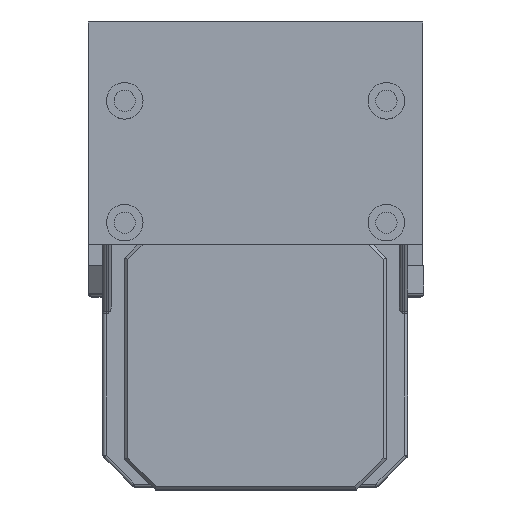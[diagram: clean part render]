
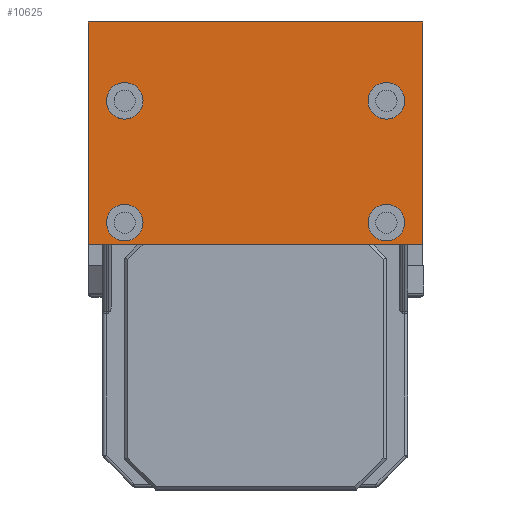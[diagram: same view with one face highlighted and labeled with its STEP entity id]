
A CAD part, top view. The second image highlights one B-rep face of the part: STEP entity #10625.
In plain terms, the highlighted planar face has unit normal (0, 0, 1).
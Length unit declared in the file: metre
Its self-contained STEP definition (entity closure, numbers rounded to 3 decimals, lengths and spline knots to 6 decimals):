
#881=PLANE('',#11750);
#1397=LINE('',#27463,#1933);
#1404=LINE('',#27480,#1940);
#1426=LINE('',#27572,#1962);
#1427=LINE('',#27582,#1963);
#1933=VECTOR('',#14065,1.);
#1940=VECTOR('',#14080,1.);
#1962=VECTOR('',#14198,1.);
#1963=VECTOR('',#14209,1.);
#4644=ORIENTED_EDGE('',*,*,#6384,.F.);
#4645=ORIENTED_EDGE('',*,*,#6385,.F.);
#4646=ORIENTED_EDGE('',*,*,#6386,.F.);
#4647=ORIENTED_EDGE('',*,*,#6387,.F.);
#4648=ORIENTED_EDGE('',*,*,#6340,.T.);
#4649=ORIENTED_EDGE('',*,*,#6388,.T.);
#4650=ORIENTED_EDGE('',*,*,#6349,.F.);
#4651=ORIENTED_EDGE('',*,*,#6383,.T.);
#6340=EDGE_CURVE('',#7509,#7508,#1397,.T.);
#6349=EDGE_CURVE('',#7514,#7515,#1404,.T.);
#6383=EDGE_CURVE('',#7514,#7509,#1426,.T.);
#6384=EDGE_CURVE('',#7537,#7537,#8123,.T.);
#6385=EDGE_CURVE('',#7538,#7538,#8124,.T.);
#6386=EDGE_CURVE('',#7539,#7539,#8125,.T.);
#6387=EDGE_CURVE('',#7540,#7540,#8126,.T.);
#6388=EDGE_CURVE('',#7508,#7515,#1427,.T.);
#7508=VERTEX_POINT('',#27462);
#7509=VERTEX_POINT('',#27464);
#7514=VERTEX_POINT('',#27479);
#7515=VERTEX_POINT('',#27481);
#7537=VERTEX_POINT('',#27575);
#7538=VERTEX_POINT('',#27577);
#7539=VERTEX_POINT('',#27579);
#7540=VERTEX_POINT('',#27581);
#8123=CIRCLE('',#11751,0.003);
#8124=CIRCLE('',#11752,0.003);
#8125=CIRCLE('',#11753,0.003);
#8126=CIRCLE('',#11754,0.003);
#8883=EDGE_LOOP('',(#4644));
#8884=EDGE_LOOP('',(#4645));
#8885=EDGE_LOOP('',(#4646));
#8886=EDGE_LOOP('',(#4647));
#8887=EDGE_LOOP('',(#4648,#4649,#4650,#4651));
#9744=FACE_BOUND('',#8883,.T.);
#9745=FACE_BOUND('',#8884,.T.);
#9746=FACE_BOUND('',#8885,.T.);
#9747=FACE_BOUND('',#8886,.T.);
#9748=FACE_BOUND('',#8887,.T.);
#10625=ADVANCED_FACE('',(#9744,#9745,#9746,#9747,#9748),#881,.T.);
#11750=AXIS2_PLACEMENT_3D('',#27573,#14199,#14200);
#11751=AXIS2_PLACEMENT_3D('',#27574,#14201,#14202);
#11752=AXIS2_PLACEMENT_3D('',#27576,#14203,#14204);
#11753=AXIS2_PLACEMENT_3D('',#27578,#14205,#14206);
#11754=AXIS2_PLACEMENT_3D('',#27580,#14207,#14208);
#14065=DIRECTION('',(0.,-1.,0.));
#14080=DIRECTION('',(0.,-1.,0.));
#14198=DIRECTION('',(-1.,0.,0.));
#14199=DIRECTION('',(0.,0.,1.));
#14200=DIRECTION('',(1.,0.,0.));
#14201=DIRECTION('',(0.,0.,1.));
#14202=DIRECTION('',(1.,0.,0.));
#14203=DIRECTION('',(0.,0.,1.));
#14204=DIRECTION('',(1.,0.,0.));
#14205=DIRECTION('',(0.,0.,1.));
#14206=DIRECTION('',(1.,0.,0.));
#14207=DIRECTION('',(0.,0.,1.));
#14208=DIRECTION('',(1.,0.,0.));
#14209=DIRECTION('',(1.,0.,0.));
#27462=CARTESIAN_POINT('',(-0.021408,-0.01159,0.185201));
#27463=CARTESIAN_POINT('',(-0.021408,0.004,0.185201));
#27464=CARTESIAN_POINT('',(-0.021408,0.025,0.185201));
#27479=CARTESIAN_POINT('',(0.033532,0.025,0.185201));
#27480=CARTESIAN_POINT('',(0.033532,0.004,0.185201));
#27481=CARTESIAN_POINT('',(0.033532,-0.01159,0.185201));
#27572=CARTESIAN_POINT('',(0.006062,0.025,0.185201));
#27573=CARTESIAN_POINT('',(0.006062,0.004,0.185201));
#27574=CARTESIAN_POINT('',(-0.015408,-0.00794,0.185201));
#27575=CARTESIAN_POINT('',(-0.012408,-0.00794,0.185201));
#27576=CARTESIAN_POINT('',(0.027532,0.01206,0.185201));
#27577=CARTESIAN_POINT('',(0.030532,0.01206,0.185201));
#27578=CARTESIAN_POINT('',(0.027532,-0.00794,0.185201));
#27579=CARTESIAN_POINT('',(0.030532,-0.00794,0.185201));
#27580=CARTESIAN_POINT('',(-0.015408,0.01206,0.185201));
#27581=CARTESIAN_POINT('',(-0.012408,0.01206,0.185201));
#27582=CARTESIAN_POINT('',(0.006062,-0.01159,0.185201));
